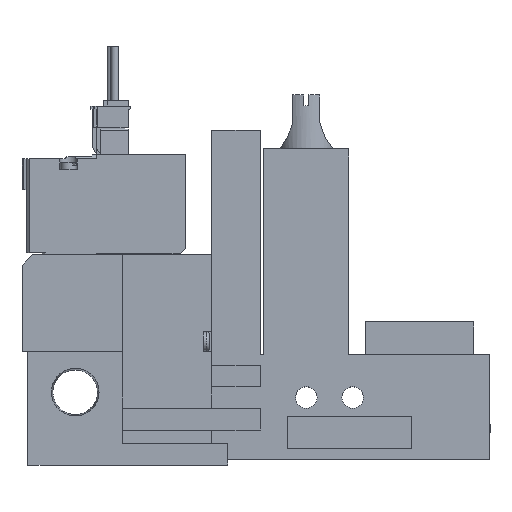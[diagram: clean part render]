
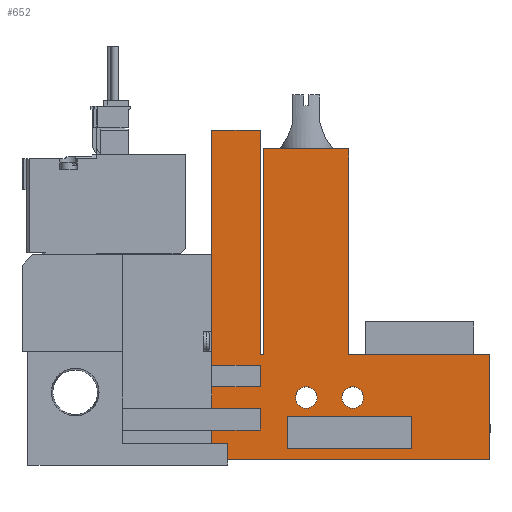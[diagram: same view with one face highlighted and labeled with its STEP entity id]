
A CAD part, top view. The second image highlights one B-rep face of the part: STEP entity #652.
In plain terms, the highlighted planar face has unit normal (0, 0, 1).
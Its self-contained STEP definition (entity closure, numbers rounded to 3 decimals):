
#652=ADVANCED_FACE('',(#1387,#1388,#1389,#1390),#1391,.T.);
#1387=FACE_OUTER_BOUND('',#2198,.T.);
#1388=FACE_BOUND('',#2199,.T.);
#1389=FACE_BOUND('',#2200,.T.);
#1390=FACE_BOUND('',#2201,.T.);
#1391=PLANE('',#2202);
#2198=EDGE_LOOP('',(#4992,#4993,#4994,#4995,#4996,#4997,#4998,#4999,#5000,#5001,#5002,#5003,#5004,#5005,#5006,#5007,#5008,#5009));
#2199=EDGE_LOOP('',(#5010,#5011,#5012,#5013));
#2200=EDGE_LOOP('',(#5014));
#2201=EDGE_LOOP('',(#5015));
#2202=AXIS2_PLACEMENT_3D('',#5016,#5017,#5018);
#4992=ORIENTED_EDGE('',*,*,#6051,.T.);
#4993=ORIENTED_EDGE('',*,*,#6030,.T.);
#4994=ORIENTED_EDGE('',*,*,#6102,.T.);
#4995=ORIENTED_EDGE('',*,*,#6026,.T.);
#4996=ORIENTED_EDGE('',*,*,#6120,.T.);
#4997=ORIENTED_EDGE('',*,*,#6014,.T.);
#4998=ORIENTED_EDGE('',*,*,#6074,.T.);
#4999=ORIENTED_EDGE('',*,*,#6058,.T.);
#5000=ORIENTED_EDGE('',*,*,#6160,.T.);
#5001=ORIENTED_EDGE('',*,*,#6097,.T.);
#5002=ORIENTED_EDGE('',*,*,#6169,.T.);
#5003=ORIENTED_EDGE('',*,*,#6142,.T.);
#5004=ORIENTED_EDGE('',*,*,#6117,.T.);
#5005=ORIENTED_EDGE('',*,*,#6087,.T.);
#5006=ORIENTED_EDGE('',*,*,#6084,.T.);
#5007=ORIENTED_EDGE('',*,*,#6054,.T.);
#5008=ORIENTED_EDGE('',*,*,#6108,.T.);
#5009=ORIENTED_EDGE('',*,*,#6035,.T.);
#5010=ORIENTED_EDGE('',*,*,#6173,.T.);
#5011=ORIENTED_EDGE('',*,*,#6168,.T.);
#5012=ORIENTED_EDGE('',*,*,#6111,.T.);
#5013=ORIENTED_EDGE('',*,*,#6072,.T.);
#5014=ORIENTED_EDGE('',*,*,#6113,.T.);
#5015=ORIENTED_EDGE('',*,*,#6171,.T.);
#5016=CARTESIAN_POINT('',(0.0,0.0,10.0));
#5017=DIRECTION('',(0.0,0.0,1.0));
#5018=DIRECTION('',(1.0,0.0,0.0));
#6014=EDGE_CURVE('',#7446,#7447,#7448,.T.);
#6026=EDGE_CURVE('',#7463,#7467,#7469,.T.);
#6030=EDGE_CURVE('',#7470,#7474,#7476,.T.);
#6035=EDGE_CURVE('',#7485,#7483,#7486,.T.);
#6051=EDGE_CURVE('',#7483,#7470,#7515,.T.);
#6054=EDGE_CURVE('',#7521,#7519,#7522,.T.);
#6058=EDGE_CURVE('',#7528,#7526,#7529,.T.);
#6072=EDGE_CURVE('',#7545,#7550,#7552,.T.);
#6074=EDGE_CURVE('',#7447,#7528,#7554,.T.);
#6084=EDGE_CURVE('',#7570,#7521,#7571,.T.);
#6087=EDGE_CURVE('',#7575,#7570,#7576,.T.);
#6097=EDGE_CURVE('',#7592,#7590,#7593,.T.);
#6102=EDGE_CURVE('',#7474,#7463,#7599,.T.);
#6108=EDGE_CURVE('',#7519,#7485,#7605,.T.);
#6111=EDGE_CURVE('',#7606,#7545,#7610,.T.);
#6113=EDGE_CURVE('',#7613,#7613,#7614,.T.);
#6117=EDGE_CURVE('',#7619,#7575,#7620,.T.);
#6120=EDGE_CURVE('',#7467,#7446,#7623,.T.);
#6142=EDGE_CURVE('',#7656,#7619,#7657,.T.);
#6160=EDGE_CURVE('',#7526,#7592,#7685,.T.);
#6168=EDGE_CURVE('',#7693,#7606,#7695,.T.);
#6169=EDGE_CURVE('',#7590,#7656,#7696,.T.);
#6171=EDGE_CURVE('',#7698,#7698,#7699,.T.);
#6173=EDGE_CURVE('',#7550,#7693,#7701,.T.);
#7446=VERTEX_POINT('',#9753);
#7447=VERTEX_POINT('',#9754);
#7448=LINE('',#9755,#9756);
#7463=VERTEX_POINT('',#9779);
#7467=VERTEX_POINT('',#9785);
#7469=LINE('',#9788,#9789);
#7470=VERTEX_POINT('',#9790);
#7474=VERTEX_POINT('',#9796);
#7476=LINE('',#9799,#9800);
#7483=VERTEX_POINT('',#9810);
#7485=VERTEX_POINT('',#9813);
#7486=LINE('',#9814,#9815);
#7515=LINE('',#9858,#9859);
#7519=VERTEX_POINT('',#9864);
#7521=VERTEX_POINT('',#9867);
#7522=LINE('',#9868,#9869);
#7526=VERTEX_POINT('',#9875);
#7528=VERTEX_POINT('',#9878);
#7529=LINE('',#9879,#9880);
#7545=VERTEX_POINT('',#9906);
#7550=VERTEX_POINT('',#9913);
#7552=LINE('',#9916,#9917);
#7554=LINE('',#9920,#9921);
#7570=VERTEX_POINT('',#9945);
#7571=LINE('',#9946,#9947);
#7575=VERTEX_POINT('',#9953);
#7576=LINE('',#9954,#9955);
#7590=VERTEX_POINT('',#9976);
#7592=VERTEX_POINT('',#9979);
#7593=LINE('',#9980,#9981);
#7599=LINE('',#9991,#9992);
#7605=LINE('',#10003,#10004);
#7606=VERTEX_POINT('',#10005);
#7610=LINE('',#10011,#10012);
#7613=VERTEX_POINT('',#10015);
#7614=CIRCLE('',#10016,2.0);
#7619=VERTEX_POINT('',#10022);
#7620=LINE('',#10023,#10024);
#7623=LINE('',#10029,#10030);
#7656=VERTEX_POINT('',#10079);
#7657=LINE('',#10080,#10081);
#7685=LINE('',#10122,#10123);
#7693=VERTEX_POINT('',#10135);
#7695=LINE('',#10138,#10139);
#7696=LINE('',#10140,#10141);
#7698=VERTEX_POINT('',#10144);
#7699=CIRCLE('',#10145,2.0);
#7701=LINE('',#10148,#10149);
#9753=CARTESIAN_POINT('',(35.1,9.5,10.0));
#9754=CARTESIAN_POINT('',(44.1,9.5,10.0));
#9755=CARTESIAN_POINT('',(0.0,9.5,10.0));
#9756=VECTOR('',#11236,1.0);
#9779=CARTESIAN_POINT('',(44.1,13.5,10.0));
#9785=CARTESIAN_POINT('',(35.1,13.5,10.0));
#9788=CARTESIAN_POINT('',(0.0,13.5,10.0));
#9789=VECTOR('',#11248,1.0);
#9790=CARTESIAN_POINT('',(35.1,17.5,10.0));
#9796=CARTESIAN_POINT('',(44.1,17.5,10.0));
#9799=CARTESIAN_POINT('',(0.0,17.5,10.0));
#9800=VECTOR('',#11252,1.0);
#9810=CARTESIAN_POINT('',(35.1,61.0,10.0));
#9813=CARTESIAN_POINT('',(44.1,61.0,10.0));
#9814=CARTESIAN_POINT('',(44.1,61.0,10.0));
#9815=VECTOR('',#11257,1.0);
#9858=CARTESIAN_POINT('',(35.1,61.0,10.0));
#9859=VECTOR('',#11275,1.0);
#9864=CARTESIAN_POINT('',(44.1,19.5,10.0));
#9867=CARTESIAN_POINT('',(44.75,19.5,10.0));
#9868=CARTESIAN_POINT('',(44.75,19.5,10.0));
#9869=VECTOR('',#11278,1.0);
#9875=CARTESIAN_POINT('',(35.1,5.5,10.0));
#9878=CARTESIAN_POINT('',(44.1,5.5,10.0));
#9879=CARTESIAN_POINT('',(0.0,5.5,10.0));
#9880=VECTOR('',#11282,1.0);
#9906=CARTESIAN_POINT('',(72.1,2.0,10.0));
#9913=CARTESIAN_POINT('',(49.1,2.0,10.0));
#9916=CARTESIAN_POINT('',(0.0,2.0,10.0));
#9917=VECTOR('',#11296,1.0);
#9920=CARTESIAN_POINT('',(44.1,0.0,10.0));
#9921=VECTOR('',#11298,1.0);
#9945=CARTESIAN_POINT('',(44.75,57.5,10.0));
#9946=CARTESIAN_POINT('',(44.75,57.5,10.0));
#9947=VECTOR('',#11310,1.0);
#9953=CARTESIAN_POINT('',(60.45,57.5,10.0));
#9954=CARTESIAN_POINT('',(60.45,57.5,10.0));
#9955=VECTOR('',#11313,1.0);
#9976=CARTESIAN_POINT('',(86.6,0.0,10.0));
#9979=CARTESIAN_POINT('',(35.1,0.0,10.0));
#9980=CARTESIAN_POINT('',(18.6,0.0,10.0));
#9981=VECTOR('',#11325,1.0);
#9991=CARTESIAN_POINT('',(44.1,0.0,10.0));
#9992=VECTOR('',#11330,1.0);
#10003=CARTESIAN_POINT('',(44.1,19.5,10.0));
#10004=VECTOR('',#11336,1.0);
#10005=CARTESIAN_POINT('',(72.1,8.0,10.0));
#10011=CARTESIAN_POINT('',(72.1,0.0,10.0));
#10012=VECTOR('',#11339,1.0);
#10015=CARTESIAN_POINT('',(54.6,11.5,10.0));
#10016=AXIS2_PLACEMENT_3D('',#11343,#11344,#11345);
#10022=CARTESIAN_POINT('',(60.45,19.5,10.0));
#10023=CARTESIAN_POINT('',(60.45,19.5,10.0));
#10024=VECTOR('',#11350,1.0);
#10029=CARTESIAN_POINT('',(35.1,0.0,10.0));
#10030=VECTOR('',#11353,1.0);
#10079=CARTESIAN_POINT('',(86.6,19.5,10.0));
#10080=CARTESIAN_POINT('',(86.6,19.5,10.0));
#10081=VECTOR('',#11385,1.0);
#10122=CARTESIAN_POINT('',(35.1,0.0,10.0));
#10123=VECTOR('',#11411,1.0);
#10135=CARTESIAN_POINT('',(49.1,8.0,10.0));
#10138=CARTESIAN_POINT('',(0.0,8.0,10.0));
#10139=VECTOR('',#11423,1.0);
#10140=CARTESIAN_POINT('',(86.6,0.0,10.0));
#10141=VECTOR('',#11424,1.0);
#10144=CARTESIAN_POINT('',(63.2,11.5,10.0));
#10145=AXIS2_PLACEMENT_3D('',#11426,#11427,#11428);
#10148=CARTESIAN_POINT('',(49.1,0.0,10.0));
#10149=VECTOR('',#11430,1.0);
#11236=DIRECTION('',(1.0,0.0,0.0));
#11248=DIRECTION('',(-1.0,0.0,0.0));
#11252=DIRECTION('',(1.0,0.0,0.0));
#11257=DIRECTION('',(-1.0,0.0,0.0));
#11275=DIRECTION('',(0.0,-1.0,0.0));
#11278=DIRECTION('',(-1.0,0.0,0.0));
#11282=DIRECTION('',(-1.0,0.0,0.0));
#11296=DIRECTION('',(-1.0,0.0,0.0));
#11298=DIRECTION('',(0.0,-1.0,0.0));
#11310=DIRECTION('',(0.0,-1.0,0.0));
#11313=DIRECTION('',(-1.0,0.0,0.0));
#11325=DIRECTION('',(1.0,0.0,0.0));
#11330=DIRECTION('',(0.0,-1.0,0.0));
#11336=DIRECTION('',(0.0,1.0,0.0));
#11339=DIRECTION('',(0.0,-1.0,0.0));
#11343=CARTESIAN_POINT('',(52.6,11.5,10.0));
#11344=DIRECTION('',(0.0,0.0,-1.0));
#11345=DIRECTION('',(1.0,0.0,0.0));
#11350=DIRECTION('',(0.0,1.0,0.0));
#11353=DIRECTION('',(0.0,-1.0,0.0));
#11385=DIRECTION('',(-1.0,0.0,0.0));
#11411=DIRECTION('',(0.0,-1.0,0.0));
#11423=DIRECTION('',(1.0,0.0,0.0));
#11424=DIRECTION('',(0.0,1.0,0.0));
#11426=CARTESIAN_POINT('',(61.2,11.5,10.0));
#11427=DIRECTION('',(0.0,0.0,-1.0));
#11428=DIRECTION('',(1.0,0.0,0.0));
#11430=DIRECTION('',(0.0,1.0,0.0));
